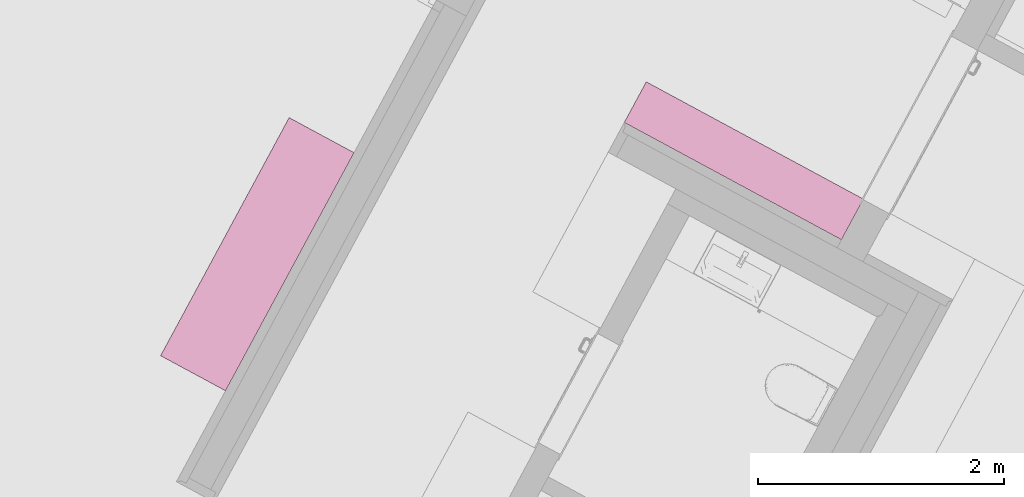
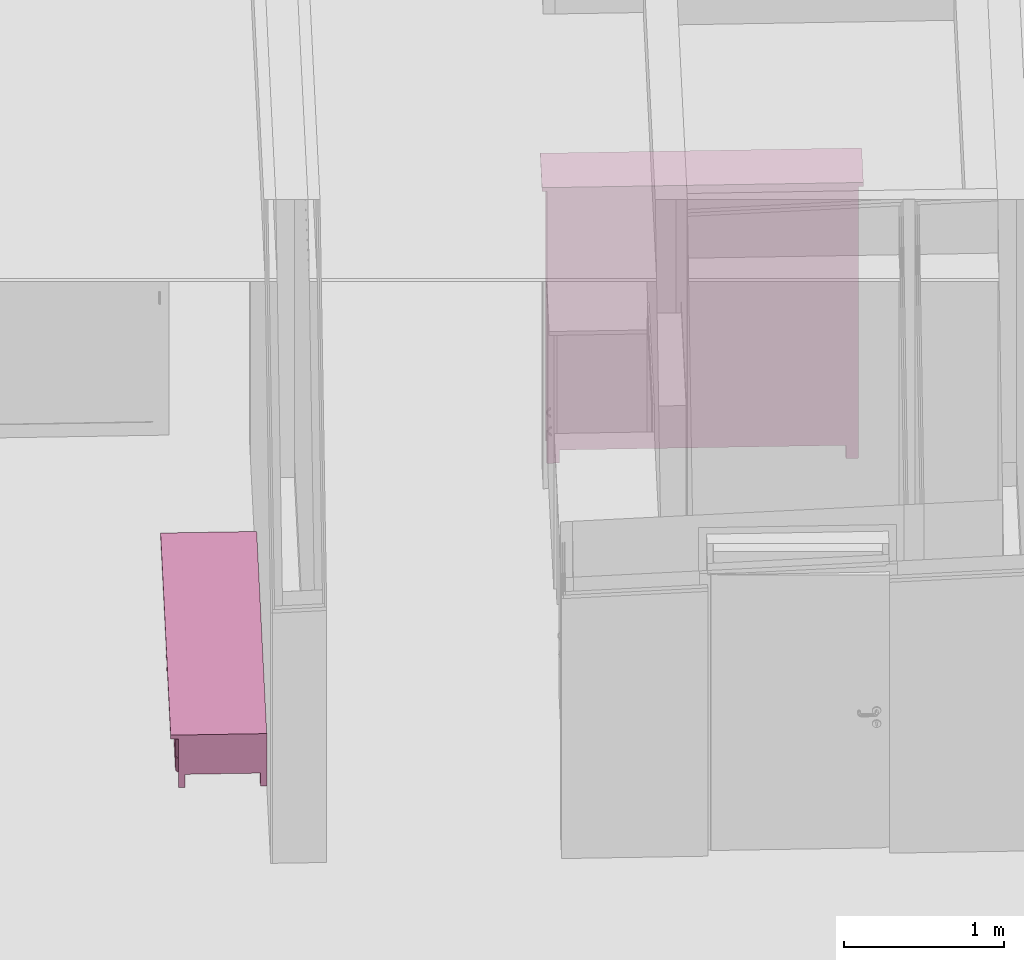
# One storey, part 35 of 52: 2 furnishings.
"""IFC2X3 building model written with IfcOpenShell, lengths in metres."""

import ifcopenshell
import ifcopenshell.guid

model = None  # the IFC model being written
_history = None  # IfcOwnerHistory: only IFC2X3 demands one
_inside = {}  # id of a spatial element -> (the spatial element, [elements in it])
_under = {}  # id of a project, library or spatial element -> (it, [spatial elements below it])
_declared = {}  # id of a project -> (the project, [libraries it declares])
_typed = {}  # id of a type object -> (the type object, [elements of that type])
_made_of = {}  # id of a material, layer set ... -> (it, [elements and type objects made of it])


def new_model(schema):
    """Start an empty IFC model of exactly this schema.

    Asked for "IFC4X3", IfcOpenShell would pick the latest addendum, in which some entities
    have other attributes; the version numbers below select the first issue.
    IFC2X3 requires an IfcOwnerHistory on every rooted entity: one is made here for all.
    """
    global model, _history
    if schema == "IFC4X3":
        model = ifcopenshell.file(schema_version=(4, 3, 0, 0))
    else:
        model = ifcopenshell.file(schema=schema)
    _inside.clear()
    _under.clear()
    _declared.clear()
    _typed.clear()
    _made_of.clear()
    _history = None
    if model.schema == "IFC2X3":
        org = make("IfcOrganization", Name="unknown")
        user = make(
            "IfcPersonAndOrganization",
            ThePerson=make("IfcPerson", FamilyName="unknown"),
            TheOrganization=org,
        )
        app = make(
            "IfcApplication",
            ApplicationDeveloper=org,
            Version="unknown",
            ApplicationFullName="unknown",
            ApplicationIdentifier="unknown",
        )
        _history = make(
            "IfcOwnerHistory",
            OwningUser=user,
            OwningApplication=app,
            ChangeAction="ADDED",
            CreationDate=0,
        )
    return model


def make(cls, **values):
    """One entity of the class cls with the attributes given. An attribute that is None is left unset."""
    return model.create_entity(
        cls, **{name: value for name, value in values.items() if value is not None}
    )


def entity(cls, *values):
    """Any entity or typed value of the class cls, its attributes in the order of the schema. None: left unset."""
    e = model.create_entity(cls)
    for i, value in enumerate(values):
        if value is not None:
            e[i] = value
    return e


def rooted(cls, **values):
    """An entity with a GlobalId (a new one), such as an element, a storey or a relation."""
    return make(cls, GlobalId=ifcopenshell.guid.new(), OwnerHistory=_history, **values)


def si_unit(unit_type, name, prefix=None):
    """IfcSIUnit, for example si_unit("LENGTHUNIT", "METRE", prefix="MILLI")."""
    return make("IfcSIUnit", UnitType=unit_type, Prefix=prefix, Name=name)


def converted_unit(unit_type, name, factor, base, dimensions=None, offset=None):
    """IfcConversionBasedUnit, such as the inch: factor (a typed value) times the base unit."""
    return make(
        "IfcConversionBasedUnit"
        if offset is None
        else "IfcConversionBasedUnitWithOffset",
        ConversionOffset=offset,
        Dimensions=None
        if dimensions is None
        else entity("IfcDimensionalExponents", *dimensions),
        UnitType=unit_type,
        Name=name,
        ConversionFactor=make(
            "IfcMeasureWithUnit", ValueComponent=factor, UnitComponent=base
        ),
    )


def derived_unit(unit_type, elements):
    """IfcDerivedUnit: a product of units, each with its exponent."""
    return make(
        "IfcDerivedUnit",
        Elements=[
            make("IfcDerivedUnitElement", Unit=unit, Exponent=power)
            for unit, power in elements
        ],
        UnitType=unit_type,
    )


def money_unit(currency):
    """IfcMonetaryUnit."""
    return make("IfcMonetaryUnit", Currency=currency)


def assignment(units):
    """IfcUnitAssignment: the units of a project."""
    return None if units is None else make("IfcUnitAssignment", Units=units)


def point(xyz):
    """IfcCartesianPoint."""
    return None if xyz is None else make("IfcCartesianPoint", Coordinates=xyz)


def direction(xyz):
    """IfcDirection."""
    return None if xyz is None else make("IfcDirection", DirectionRatios=xyz)


def frame(location, z_axis=None, x_axis=None):
    """IfcAxis2Placement3D, a coordinate frame: its origin and axes. An axis left out is left unset."""
    return make(
        "IfcAxis2Placement3D",
        Location=point(location),
        Axis=direction(z_axis),
        RefDirection=direction(x_axis),
    )


def origin_with_axes():
    """The frame at (0, 0, 0) with the z axis (0, 0, 1) and the x axis (1, 0, 0) written out."""
    return frame((0.0, 0.0, 0.0), z_axis=(0.0, 0.0, 1.0), x_axis=(1.0, 0.0, 0.0))


def place(relative_to, where):
    """IfcLocalPlacement: puts the frame where relative to a parent placement (None: the world)."""
    return make(
        "IfcLocalPlacement", PlacementRelTo=relative_to, RelativePlacement=where
    )


def context(
    kind, dimensions, precision=None, world=None, true_north=None, identifier=None
):
    """IfcGeometricRepresentationContext, for example the 3D "Model" context."""
    return make(
        "IfcGeometricRepresentationContext",
        ContextIdentifier=identifier,
        ContextType=kind,
        CoordinateSpaceDimension=dimensions,
        Precision=precision,
        WorldCoordinateSystem=world,
        TrueNorth=true_north,
    )


def subcontext(parent, identifier, kind, view, scale=None):
    """IfcGeometricRepresentationSubContext, for example "Body" below "Model"."""
    return make(
        "IfcGeometricRepresentationSubContext",
        ContextIdentifier=identifier,
        ContextType=kind,
        ParentContext=parent,
        TargetScale=scale,
        TargetView=view,
    )


def project(units=None, contexts=None):
    """IfcProject with its units and contexts."""
    return rooted(
        "IfcProject",
        Name="project",
        RepresentationContexts=contexts,
        UnitsInContext=assignment(units),
    )


def spatial(cls, under=None, at=None, **own):
    """A site, building, storey or space (cls), placed at a placement, below another one or the project."""
    s = rooted(cls, ObjectPlacement=at, **own)
    if under is not None:
        _under.setdefault(under.id(), (under, []))[1].append(s)
    return s


def faces_of(points, faces, orient=None, outer=None):
    """IfcFace entities. A face is a list of loops; a loop is a list of indices into points, from 0.

    orient and outer hold one flag for each loop. By default every Orientation is true, the
    first loop of a face is its IfcFaceOuterBound and the others are IfcFaceBound.
    """
    made = []
    for i, loops in enumerate(faces):
        bounds = []
        for j, loop in enumerate(loops):
            is_outer = j == 0 if outer is None else outer[i][j]
            bounds.append(
                make(
                    "IfcFaceOuterBound" if is_outer else "IfcFaceBound",
                    Bound=make("IfcPolyLoop", Polygon=[points[k] for k in loop]),
                    Orientation=True if orient is None else orient[i][j],
                )
            )
        made.append(make("IfcFace", Bounds=bounds))
    return made


def faceted_brep(points, faces, orient=None, outer=None, voids=None):
    """IfcFacetedBrep: a solid bounded by flat faces; with voids (closed shells), ...WithVoids."""
    shared = [point(p) for p in points]
    hull = make("IfcClosedShell", CfsFaces=faces_of(shared, faces, orient, outer))
    if voids is None:
        return make("IfcFacetedBrep", Outer=hull)
    return make(
        "IfcFacetedBrepWithVoids",
        Outer=hull,
        Voids=[
            make(cls, CfsFaces=faces_of(shared, fs, o, b)) for cls, fs, o, b in voids
        ],
    )


def shape(context_of_items, identifier, shape_type, items):
    """IfcShapeRepresentation: the items that make up one representation, for example the "Body"."""
    return make(
        "IfcShapeRepresentation",
        ContextOfItems=context_of_items,
        RepresentationIdentifier=identifier,
        RepresentationType=shape_type,
        Items=items,
    )


def made_of(thing, what):
    """Note that an element or type object is made of a material, layer set ...; save() writes the relation."""
    if what is not None:
        _made_of.setdefault(what.id(), (what, []))[1].append(thing)
    return thing


def type_object(cls, material=None, **own):
    """A type object (cls), such as IfcWallType, which elements share."""
    return made_of(rooted(cls, **own), material)


def element(
    cls,
    number,
    at=None,
    inside=None,
    cuts=None,
    type_object=None,
    material=None,
    context=None,
    identifier="Body",
    shape_type=None,
    held_by="IfcProductDefinitionShape",
    body=None,
    shapes=None,
    **own,
):
    """One element of the class cls, such as IfcWall. Its Tag is "e" and its number.

    at: its placement. inside: the storey or other place that contains it. cuts: it is an
    opening in that element (IfcRelVoidsElement). A single representation is given by context,
    identifier, shape_type and body (its items); several are given by shapes. held_by: the class
    of the entity that holds the representations. save() writes the other relations.
    """
    e = rooted(cls, Tag="e%d" % number, ObjectPlacement=at, **own)
    if body is not None:
        shapes = [shape(context, identifier, shape_type, body)]
    if shapes is not None:
        e.Representation = make(held_by, Representations=shapes)
    if inside is not None:
        _inside.setdefault(inside.id(), (inside, []))[1].append(e)
    if cuts is not None:
        rooted(
            "IfcRelVoidsElement", RelatingBuildingElement=cuts, RelatedOpeningElement=e
        )
    if type_object is not None:
        _typed.setdefault(type_object.id(), (type_object, []))[1].append(e)
    return made_of(e, material)


def aggregate(whole, parts):
    """IfcRelAggregates: a whole, such as a stair, and the parts it consists of."""
    return rooted("IfcRelAggregates", RelatingObject=whole, RelatedObjects=parts)


def save(model, path):
    """Write the relations noted so far, then the file.

    IfcRelAggregates (storeys below a building ...), IfcRelContainedInSpatialStructure (elements
    in a storey), IfcRelDefinesByType, IfcRelAssociatesMaterial and IfcRelDeclares: one each for
    every whole, place, type object, material and project.
    """
    for whole, parts in _under.values():
        aggregate(whole, parts)
    for where, things in _inside.values():
        rooted(
            "IfcRelContainedInSpatialStructure",
            RelatedElements=things,
            RelatingStructure=where,
        )
    for kind, things in _typed.values():
        rooted("IfcRelDefinesByType", RelatedObjects=things, RelatingType=kind)
    for what, things in _made_of.values():
        rooted("IfcRelAssociatesMaterial", RelatedObjects=things, RelatingMaterial=what)
    for by, libraries in _declared.values():
        rooted("IfcRelDeclares", RelatingContext=by, RelatedDefinitions=libraries)
    model.write(path)


model = new_model("IFC2X3")

# Units and contexts
model_context = context("Model", 3, precision=1e-05, world=origin_with_axes(), true_north=direction((0.0, 1.0)))
body_context = subcontext(model_context, "Body", "Model", "MODEL_VIEW")
ifc_project = project(units=[si_unit("LENGTHUNIT", "METRE"), si_unit("AREAUNIT", "SQUARE_METRE"), si_unit("VOLUMEUNIT", "CUBIC_METRE"), converted_unit("PLANEANGLEUNIT", "DEGREE", entity("IfcPlaneAngleMeasure", 0.0174532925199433), si_unit("PLANEANGLEUNIT", "RADIAN"), dimensions=[0, 0, 0, 0, 0, 0, 0]), money_unit("EUR"), converted_unit("TIMEUNIT", "Year", entity("IfcTimeMeasure", 31556926.0), si_unit("TIMEUNIT", "SECOND"), dimensions=[0, 0, 1, 0, 0, 0, 0]), si_unit("MASSUNIT", "GRAM", prefix="KILO"), si_unit("THERMODYNAMICTEMPERATUREUNIT", "DEGREE_CELSIUS"), si_unit("LUMINOUSINTENSITYUNIT", "LUMEN"), si_unit("ENERGYUNIT", "JOULE", prefix="MEGA"), derived_unit("THERMALCONDUCTANCEUNIT", [(si_unit("POWERUNIT", "WATT"), 1), (si_unit("LENGTHUNIT", "METRE"), -1), (si_unit("THERMODYNAMICTEMPERATUREUNIT", "KELVIN"), -1)]), derived_unit("SPECIFICHEATCAPACITYUNIT", [(si_unit("ENERGYUNIT", "JOULE"), 1), (si_unit("MASSUNIT", "GRAM", prefix="KILO"), -1), (si_unit("THERMODYNAMICTEMPERATUREUNIT", "KELVIN"), -1)]), derived_unit("MASSDENSITYUNIT", [(si_unit("MASSUNIT", "GRAM", prefix="KILO"), 1), (si_unit("VOLUMEUNIT", "CUBIC_METRE"), -1)])], contexts=[model_context])

# Site, building, storey
site_placement = place(None, frame((-3.949935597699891, 1.740105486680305, 0.0), z_axis=(0.0, 0.0, 1.0), x_axis=(0.8799804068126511, -0.475009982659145, 0.0)))
site = spatial("IfcSite", under=ifc_project, at=site_placement, Name="Gelände", CompositionType="ELEMENT")
building_placement = place(site_placement, origin_with_axes())
building = spatial("IfcBuilding", under=site, at=building_placement, Name="Gebäude", CompositionType="ELEMENT")
storey_placement = place(building_placement, origin_with_axes())
storey = spatial("IfcBuildingStorey", under=building, at=storey_placement, Name="Erdgeschoss", CompositionType="ELEMENT", Elevation=0.0)

# Furnishings
furnishing_element_type_1 = type_object("IfcFurnishingElementType", Name="Kleiderschrank 22")
furnishing_1_placement = place(storey_placement, frame((17.16748824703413, 7.378842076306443, 0.0), z_axis=(0.0, 0.0, 1.0), x_axis=(-1.0, 0.0, 0.0)))
element("IfcFurnishingElement", 1, at=furnishing_1_placement, inside=storey, type_object=furnishing_element_type_1, Name="Objekt-0067", context=body_context, shape_type="Brep", body=[
    faceted_brep([(0.05000000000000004, 0.3757887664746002, 0.12), (0.05000000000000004, 0.3557887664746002, 0.12), (0.05000000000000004, 0.3557887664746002, 2.05), (0.05000000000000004, 0.3757887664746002, 2.05), (1.956660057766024, 0.3757887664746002, 0.12), (1.956660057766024, 0.3557887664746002, 0.12), (1.956660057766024, 0.3557887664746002, 2.05), (1.956660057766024, 0.3757887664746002, 2.05)], [[[0, 1, 2, 3]], [[0, 4, 5, 1]], [[1, 5, 6, 2]], [[3, 2, 6, 7]], [[4, 0, 3, 7]], [[5, 4, 7, 6]]]),
    faceted_brep([(1.976660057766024, 0.05000000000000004, 0.1), (1.956660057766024, 0.05000000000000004, 0.1), (1.956660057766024, 0.3757887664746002, 0.1), (1.976660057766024, 0.3757887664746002, 0.1), (1.976660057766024, 0.05000000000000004, 2.07), (1.956660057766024, 0.05000000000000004, 2.07), (1.956660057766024, 0.3757887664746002, 2.07), (1.976660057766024, 0.3757887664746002, 2.07)], [[[0, 1, 2, 3]], [[1, 0, 4, 5]], [[2, 1, 5, 6]], [[3, 2, 6, 7]], [[0, 3, 7, 4]], [[5, 4, 7, 6]]]),
    faceted_brep([(0.05000000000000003, 0.05000000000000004, 0.1), (0.03000000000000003, 0.05000000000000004, 0.1), (0.03000000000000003, 0.3757887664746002, 0.1), (0.05000000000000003, 0.3757887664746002, 0.1), (0.05000000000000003, 0.05000000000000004, 2.07), (0.03000000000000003, 0.05000000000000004, 2.07), (0.03000000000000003, 0.3757887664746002, 2.07), (0.05000000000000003, 0.3757887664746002, 2.07)], [[[0, 1, 2, 3]], [[1, 0, 4, 5]], [[2, 1, 5, 6]], [[3, 2, 6, 7]], [[0, 3, 7, 4]], [[5, 4, 7, 6]]]),
    faceted_brep([(1.956660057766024, 0.05000000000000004, 0.1), (0.05000000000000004, 0.05000000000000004, 0.1), (0.05000000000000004, 0.3757887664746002, 0.1), (1.956660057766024, 0.3757887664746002, 0.1), (1.956660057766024, 0.05000000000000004, 0.12), (0.05000000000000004, 0.05000000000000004, 0.12), (0.05000000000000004, 0.3757887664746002, 0.12), (1.956660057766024, 0.3757887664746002, 0.12)], [[[0, 1, 2, 3]], [[1, 0, 4, 5]], [[2, 1, 5, 6]], [[3, 2, 6, 7]], [[0, 3, 7, 4]], [[5, 4, 7, 6]]]),
    faceted_brep([(1.956660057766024, 0.05000000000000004, 2.05), (0.05000000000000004, 0.05000000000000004, 2.05), (0.05000000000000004, 0.3757887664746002, 2.05), (1.956660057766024, 0.3757887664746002, 2.05), (1.956660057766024, 0.05000000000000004, 2.07), (0.05000000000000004, 0.05000000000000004, 2.07), (0.05000000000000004, 0.3757887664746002, 2.07), (1.956660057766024, 0.3757887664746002, 2.07)], [[[0, 1, 2, 3]], [[1, 0, 4, 5]], [[2, 1, 5, 6]], [[3, 2, 6, 7]], [[0, 3, 7, 4]], [[5, 4, 7, 6]]]),
    faceted_brep([(2.006660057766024, 0.3757887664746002, 2.07), (2.006660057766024, 0.3757887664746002, 2.1), (2.006660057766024, 0.0, 2.1), (2.006660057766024, 0.0, 2.07), (0.0, 0.3757887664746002, 2.07), (0.0, 0.3757887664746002, 2.1), (0.0, 0.0, 2.1), (0.0, 0.0, 2.07)], [[[0, 1, 2, 3]], [[4, 5, 1, 0]], [[1, 5, 6, 2]], [[3, 2, 6, 7]], [[0, 3, 7, 4]], [[7, 6, 5, 4]]]),
    faceted_brep([(0.1100000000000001, 0.2957887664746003, 0.0), (0.1100000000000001, 0.3757887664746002, 0.0), (0.1100000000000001, 0.3757887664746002, 0.1), (0.1100000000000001, 0.2957887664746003, 0.1), (0.03000000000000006, 0.2957887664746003, 0.0), (0.03000000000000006, 0.3757887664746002, 0.0), (0.03000000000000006, 0.3757887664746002, 0.1), (0.03000000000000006, 0.2957887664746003, 0.1)], [[[0, 1, 2, 3]], [[0, 4, 5, 1]], [[1, 5, 6, 2]], [[3, 2, 6, 7]], [[4, 0, 3, 7]], [[5, 4, 7, 6]]]),
    faceted_brep([(1.976660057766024, 0.2957887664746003, 0.0), (1.976660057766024, 0.3757887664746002, 0.0), (1.976660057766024, 0.3757887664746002, 0.1), (1.976660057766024, 0.2957887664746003, 0.1), (1.896660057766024, 0.2957887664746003, 0.0), (1.896660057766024, 0.3757887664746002, 0.0), (1.896660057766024, 0.3757887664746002, 0.1), (1.896660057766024, 0.2957887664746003, 0.1)], [[[0, 1, 2, 3]], [[0, 4, 5, 1]], [[1, 5, 6, 2]], [[3, 2, 6, 7]], [[4, 0, 3, 7]], [[5, 4, 7, 6]]]),
    faceted_brep([(0.1100000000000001, 0.05000000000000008, 0.0), (0.1100000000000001, 0.1300000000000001, 0.0), (0.1100000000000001, 0.1300000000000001, 0.1), (0.1100000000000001, 0.05000000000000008, 0.1), (0.03000000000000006, 0.05000000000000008, 0.0), (0.03000000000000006, 0.1300000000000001, 0.0), (0.03000000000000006, 0.1300000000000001, 0.1), (0.03000000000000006, 0.05000000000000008, 0.1)], [[[0, 1, 2, 3]], [[0, 4, 5, 1]], [[1, 5, 6, 2]], [[3, 2, 6, 7]], [[4, 0, 3, 7]], [[5, 4, 7, 6]]]),
    faceted_brep([(1.976660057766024, 0.05000000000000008, 0.0), (1.976660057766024, 0.1300000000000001, 0.0), (1.976660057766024, 0.1300000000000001, 0.1), (1.976660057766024, 0.05000000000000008, 0.1), (1.896660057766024, 0.05000000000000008, 0.0), (1.896660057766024, 0.1300000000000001, 0.0), (1.896660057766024, 0.1300000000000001, 0.1), (1.896660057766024, 0.05000000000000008, 0.1)], [[[0, 1, 2, 3]], [[0, 4, 5, 1]], [[1, 5, 6, 2]], [[3, 2, 6, 7]], [[4, 0, 3, 7]], [[5, 4, 7, 6]]]),
    faceted_brep([(0.04050000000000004, 0.05, 0.1104999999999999), (1.002830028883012, 0.05, 0.1104999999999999), (1.002830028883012, 0.03, 0.1104999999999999), (0.04050000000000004, 0.03, 0.1104999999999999), (0.04050000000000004, 0.05000000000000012, 2.0595), (1.002830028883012, 0.05000000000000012, 2.0595), (1.002830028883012, 0.03000000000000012, 2.0595), (0.04050000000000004, 0.03000000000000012, 2.0595)], [[[0, 1, 2, 3]], [[0, 4, 5, 1]], [[1, 5, 6, 2]], [[3, 2, 6, 7]], [[4, 0, 3, 7]], [[5, 4, 7, 6]]]),
    faceted_brep([(0.9402563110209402, 0.03, 0.955), (0.9402563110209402, 0.03, 0.965), (0.9523284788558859, 0.03, 0.965), (0.9523284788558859, 0.03, 0.955), (0.929155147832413, 0.01914952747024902, 0.965), (0.929155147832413, 0.01914952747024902, 0.955), (0.8755049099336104, 0.01914952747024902, 0.965), (0.8644037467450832, 0.03, 0.965), (0.8523315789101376, 0.03, 0.965), (0.8673017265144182, 0.01692943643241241, 0.965), (0.8842950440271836, 0.008772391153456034, 0.965), (0.9023300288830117, 0.006000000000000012, 0.965), (0.9203650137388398, 0.008772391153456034, 0.965), (0.9373583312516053, 0.01692943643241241, 0.965), (0.9162178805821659, 0.01232720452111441, 0.965), (0.9023300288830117, 0.009999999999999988, 0.965), (0.8884421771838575, 0.01232720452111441, 0.965), (0.9373583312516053, 0.01692943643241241, 0.955), (0.9203650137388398, 0.008772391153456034, 0.955), (0.9023300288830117, 0.006000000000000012, 0.955), (0.8842950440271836, 0.008772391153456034, 0.955), (0.8673017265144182, 0.01692943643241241, 0.955), (0.8523315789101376, 0.03, 0.955), (0.8644037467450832, 0.03, 0.955), (0.8755049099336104, 0.01914952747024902, 0.955), (0.8884421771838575, 0.01232720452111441, 0.955), (0.9023300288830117, 0.009999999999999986, 0.955), (0.9162178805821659, 0.01232720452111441, 0.955)], [[[0, 1, 2, 3]], [[4, 1, 0, 5]], [[6, 7, 8, 9, 10, 11, 12, 13, 2, 1, 4, 14, 15, 16]], [[13, 17, 3, 2]], [[5, 0, 3, 17, 18, 19, 20, 21, 22, 23, 24, 25, 26, 27]], [[14, 4, 5, 27]], [[7, 6, 24, 23]], [[7, 23, 22, 8]], [[8, 22, 21, 9]], [[9, 21, 20, 10]], [[10, 20, 19, 11]], [[11, 19, 18, 12]], [[12, 18, 17, 13]], [[15, 14, 27, 26]], [[16, 15, 26, 25]], [[6, 16, 25, 24]]]),
    faceted_brep([(1.004830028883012, 0.05, 0.1104999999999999), (1.967160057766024, 0.05, 0.1104999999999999), (1.967160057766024, 0.03, 0.1104999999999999), (1.004830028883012, 0.03, 0.1104999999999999), (1.004830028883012, 0.05000000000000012, 2.0595), (1.967160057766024, 0.05000000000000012, 2.0595), (1.967160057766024, 0.03000000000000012, 2.0595), (1.004830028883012, 0.03000000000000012, 2.0595)], [[[0, 1, 2, 3]], [[0, 4, 5, 1]], [[1, 5, 6, 2]], [[3, 2, 6, 7]], [[4, 0, 3, 7]], [[5, 4, 7, 6]]]),
    faceted_brep([(1.14225631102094, 0.03, 0.955), (1.14225631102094, 0.03, 0.965), (1.154328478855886, 0.03, 0.965), (1.154328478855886, 0.03, 0.955), (1.131155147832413, 0.01914952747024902, 0.965), (1.131155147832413, 0.01914952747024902, 0.955), (1.07750490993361, 0.01914952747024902, 0.965), (1.066403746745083, 0.03, 0.965), (1.054331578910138, 0.03, 0.965), (1.069301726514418, 0.01692943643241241, 0.965), (1.086295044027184, 0.008772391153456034, 0.965), (1.104330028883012, 0.006000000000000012, 0.965), (1.12236501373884, 0.008772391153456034, 0.965), (1.139358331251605, 0.01692943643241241, 0.965), (1.118217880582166, 0.01232720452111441, 0.965), (1.104330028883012, 0.009999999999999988, 0.965), (1.090442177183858, 0.01232720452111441, 0.965), (1.139358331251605, 0.01692943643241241, 0.955), (1.12236501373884, 0.008772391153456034, 0.955), (1.104330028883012, 0.006000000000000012, 0.955), (1.086295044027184, 0.008772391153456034, 0.955), (1.069301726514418, 0.01692943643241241, 0.955), (1.054331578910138, 0.03, 0.955), (1.066403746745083, 0.03, 0.955), (1.07750490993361, 0.01914952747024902, 0.955), (1.090442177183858, 0.01232720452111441, 0.955), (1.104330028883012, 0.009999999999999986, 0.955), (1.118217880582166, 0.01232720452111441, 0.955)], [[[0, 1, 2, 3]], [[4, 1, 0, 5]], [[6, 7, 8, 9, 10, 11, 12, 13, 2, 1, 4, 14, 15, 16]], [[17, 3, 2, 13]], [[5, 0, 3, 17, 18, 19, 20, 21, 22, 23, 24, 25, 26, 27]], [[14, 4, 5, 27]], [[7, 6, 24, 23]], [[7, 23, 22, 8]], [[22, 21, 9, 8]], [[21, 20, 10, 9]], [[20, 19, 11, 10]], [[19, 18, 12, 11]], [[18, 17, 13, 12]], [[15, 14, 27, 26]], [[16, 15, 26, 25]], [[6, 16, 25, 24]]]),
])
furnishing_element_type_2 = type_object("IfcFurnishingElementType", Name="Sideboard 22")
furnishing_2_placement = place(storey_placement, frame((12.74418401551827, 5.743410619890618, 0.0), z_axis=(0.0, 0.0, 1.0), x_axis=(0.0, -1.0, 0.0)))
element("IfcFurnishingElement", 2, at=furnishing_2_placement, inside=storey, type_object=furnishing_element_type_2, Name="Objekt-0067", context=body_context, shape_type="Brep", body=[
    faceted_brep([(2.18, 0.5999999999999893, 0.12), (2.18, 0.5999999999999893, 0.35), (2.18, 0.5799999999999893, 0.35), (2.18, 0.5799999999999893, 0.12), (0.02000000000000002, 0.5999999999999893, 0.12), (0.02000000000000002, 0.5999999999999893, 0.35), (0.02000000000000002, 0.5799999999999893, 0.35), (0.02000000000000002, 0.5799999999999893, 0.12)], [[[0, 1, 2, 3]], [[4, 5, 1, 0]], [[1, 5, 6, 2]], [[3, 2, 6, 7]], [[0, 3, 7, 4]], [[7, 6, 5, 4]]]),
    faceted_brep([(0.0, 0.05000000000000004, 0.1), (0.0, 0.5999999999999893, 0.1), (0.02000000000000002, 0.5999999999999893, 0.1), (0.02000000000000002, 0.05000000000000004, 0.1), (0.0, 0.05000000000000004, 0.37), (0.0, 0.5999999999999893, 0.37), (0.02000000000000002, 0.5999999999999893, 0.37), (0.02000000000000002, 0.05000000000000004, 0.37)], [[[0, 1, 2, 3]], [[0, 4, 5, 1]], [[1, 5, 6, 2]], [[2, 6, 7, 3]], [[3, 7, 4, 0]], [[7, 6, 5, 4]]]),
    faceted_brep([(2.18, 0.05000000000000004, 0.1), (2.18, 0.5999999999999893, 0.1), (2.2, 0.5999999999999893, 0.1), (2.2, 0.05000000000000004, 0.1), (2.18, 0.05000000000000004, 0.37), (2.18, 0.5999999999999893, 0.37), (2.2, 0.5999999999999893, 0.37), (2.2, 0.05000000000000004, 0.37)], [[[0, 1, 2, 3]], [[0, 4, 5, 1]], [[1, 5, 6, 2]], [[2, 6, 7, 3]], [[3, 7, 4, 0]], [[7, 6, 5, 4]]]),
    faceted_brep([(0.02000000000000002, 0.05000000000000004, 0.1), (0.02000000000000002, 0.5999999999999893, 0.1), (2.18, 0.5999999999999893, 0.1), (2.18, 0.05000000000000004, 0.1), (0.02000000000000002, 0.05000000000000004, 0.12), (0.02000000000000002, 0.5999999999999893, 0.12), (2.18, 0.5999999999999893, 0.12), (2.18, 0.05000000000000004, 0.12)], [[[0, 1, 2, 3]], [[0, 4, 5, 1]], [[1, 5, 6, 2]], [[2, 6, 7, 3]], [[3, 7, 4, 0]], [[7, 6, 5, 4]]]),
    faceted_brep([(0.02000000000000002, 0.05000000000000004, 0.35), (0.02000000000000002, 0.5999999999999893, 0.35), (2.18, 0.5999999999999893, 0.35), (2.18, 0.05000000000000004, 0.35), (0.02000000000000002, 0.05000000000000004, 0.37), (0.02000000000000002, 0.5999999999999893, 0.37), (2.18, 0.5999999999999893, 0.37), (2.18, 0.05000000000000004, 0.37)], [[[0, 1, 2, 3]], [[0, 4, 5, 1]], [[1, 5, 6, 2]], [[2, 6, 7, 3]], [[3, 7, 4, 0]], [[7, 6, 5, 4]]]),
    faceted_brep([(0.0, 0.5999999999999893, 0.37), (0.0, 0.0, 0.37), (0.0, 0.0, 0.4), (0.0, 0.5999999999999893, 0.4), (2.2, 0.5999999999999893, 0.37), (2.2, 0.0, 0.37), (2.2, 0.0, 0.4), (2.2, 0.5999999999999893, 0.4)], [[[0, 1, 2, 3]], [[0, 4, 5, 1]], [[1, 5, 6, 2]], [[3, 2, 6, 7]], [[4, 0, 3, 7]], [[5, 4, 7, 6]]]),
    faceted_brep([(2.16, 0.5599999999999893, 0.0), (2.16, 0.5599999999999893, 0.1), (2.16, 0.5999999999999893, 0.1), (2.16, 0.5999999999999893, 0.0), (2.2, 0.5599999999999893, 0.0), (2.2, 0.5599999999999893, 0.1), (2.2, 0.5999999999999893, 0.1), (2.2, 0.5999999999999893, 0.0)], [[[0, 1, 2, 3]], [[4, 5, 1, 0]], [[1, 5, 6, 2]], [[3, 2, 6, 7]], [[0, 3, 7, 4]], [[7, 6, 5, 4]]]),
    faceted_brep([(0.0, 0.5599999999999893, 0.0), (0.0, 0.5599999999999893, 0.1), (0.0, 0.5999999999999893, 0.1), (0.0, 0.5999999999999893, 0.0), (0.04000000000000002, 0.5599999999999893, 0.0), (0.04000000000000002, 0.5599999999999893, 0.1), (0.04000000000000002, 0.5999999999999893, 0.1), (0.04000000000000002, 0.5999999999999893, 0.0)], [[[0, 1, 2, 3]], [[4, 5, 1, 0]], [[1, 5, 6, 2]], [[3, 2, 6, 7]], [[0, 3, 7, 4]], [[7, 6, 5, 4]]]),
    faceted_brep([(2.16, 0.05000000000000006, 0.0), (2.16, 0.05000000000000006, 0.1), (2.16, 0.09000000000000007, 0.1), (2.16, 0.09000000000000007, 0.0), (2.2, 0.05000000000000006, 0.0), (2.2, 0.05000000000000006, 0.1), (2.2, 0.09000000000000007, 0.1), (2.2, 0.09000000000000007, 0.0)], [[[0, 1, 2, 3]], [[4, 5, 1, 0]], [[1, 5, 6, 2]], [[3, 2, 6, 7]], [[0, 3, 7, 4]], [[7, 6, 5, 4]]]),
    faceted_brep([(0.0, 0.05000000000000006, 0.0), (0.0, 0.05000000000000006, 0.1), (0.0, 0.09000000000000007, 0.1), (0.0, 0.09000000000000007, 0.0), (0.04000000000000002, 0.05000000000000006, 0.0), (0.04000000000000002, 0.05000000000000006, 0.1), (0.04000000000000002, 0.09000000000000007, 0.1), (0.04000000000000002, 0.09000000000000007, 0.0)], [[[0, 1, 2, 3]], [[4, 5, 1, 0]], [[1, 5, 6, 2]], [[3, 2, 6, 7]], [[0, 3, 7, 4]], [[7, 6, 5, 4]]]),
    faceted_brep([(2.189, 0.05000000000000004, 0.111), (1.101, 0.05000000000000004, 0.111), (1.101, 0.05000000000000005, 0.219), (2.189, 0.05000000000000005, 0.219), (2.189000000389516, 0.04000000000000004, 0.1109999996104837), (1.100999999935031, 0.04000000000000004, 0.1109999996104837), (1.100999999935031, 0.04000000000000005, 0.2189999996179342), (2.189000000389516, 0.04000000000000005, 0.2189999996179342), (2.179000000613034, 0.03000000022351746, 0.1209999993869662), (1.110999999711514, 0.03000000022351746, 0.1209999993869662), (1.110999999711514, 0.03000000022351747, 0.2089999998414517), (2.179000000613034, 0.03000000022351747, 0.2089999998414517)], [[[0, 1, 2, 3]], [[0, 4, 5, 1]], [[1, 5, 6, 2]], [[2, 6, 7, 3]], [[3, 7, 4, 0]], [[4, 8, 9, 5]], [[5, 9, 10, 6]], [[6, 10, 11, 7]], [[7, 11, 8, 4]], [[10, 9, 8, 11]]]),
    faceted_brep([(1.160607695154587, 0.03000000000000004, 0.175), (1.159, 0.03000000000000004, 0.181), (1.160607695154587, 0.03000000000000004, 0.187), (1.165, 0.03000000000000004, 0.1913923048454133), (1.171, 0.03000000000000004, 0.193), (1.177, 0.03000000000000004, 0.1913923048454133), (1.181392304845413, 0.03000000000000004, 0.187), (1.183, 0.03000000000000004, 0.181), (1.181392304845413, 0.03000000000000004, 0.175), (1.177, 0.03000000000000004, 0.1706076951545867), (1.171, 0.03000000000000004, 0.169), (1.165, 0.03000000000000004, 0.1706076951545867), (1.160607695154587, 0.005000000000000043, 0.175), (1.159, 0.005000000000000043, 0.181), (1.160607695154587, 0.005000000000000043, 0.187), (1.165, 0.005000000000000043, 0.1913923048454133), (1.171, 0.005000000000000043, 0.193), (1.177, 0.005000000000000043, 0.1913923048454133), (1.181392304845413, 0.005000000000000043, 0.187), (1.183, 0.005000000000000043, 0.181), (1.181392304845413, 0.005000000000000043, 0.175), (1.177, 0.005000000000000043, 0.1706076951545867), (1.171, 0.005000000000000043, 0.169), (1.165, 0.005000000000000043, 0.1706076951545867)], [[[0, 1, 2, 3, 4, 5, 6, 7, 8, 9, 10, 11]], [[0, 12, 13, 1]], [[1, 13, 14, 2]], [[2, 14, 15, 3]], [[3, 15, 16, 4]], [[4, 16, 17, 5]], [[5, 17, 18, 6]], [[6, 18, 19, 7]], [[7, 19, 20, 8]], [[8, 20, 21, 9]], [[9, 21, 22, 10]], [[10, 22, 23, 11]], [[11, 23, 12, 0]], [[12, 23, 22, 21, 20, 19, 18, 17, 16, 15, 14, 13]]]),
    faceted_brep([(0.0109999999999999, 0.05000000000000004, 0.111), (0.0109999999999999, 0.05000000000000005, 0.219), (1.099, 0.05000000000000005, 0.219), (1.099, 0.05000000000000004, 0.111), (0.01099999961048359, 0.04000000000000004, 0.1109999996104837), (0.01099999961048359, 0.04000000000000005, 0.2189999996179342), (1.099000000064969, 0.04000000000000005, 0.2189999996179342), (1.099000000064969, 0.04000000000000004, 0.1109999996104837), (0.02099999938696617, 0.03000000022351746, 0.1209999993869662), (0.02099999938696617, 0.03000000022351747, 0.2089999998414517), (1.089000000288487, 0.03000000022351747, 0.2089999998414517), (1.089000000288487, 0.03000000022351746, 0.1209999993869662)], [[[0, 1, 2, 3]], [[1, 0, 4, 5]], [[2, 1, 5, 6]], [[3, 2, 6, 7]], [[0, 3, 7, 4]], [[5, 4, 8, 9]], [[6, 5, 9, 10]], [[7, 6, 10, 11]], [[4, 7, 11, 8]], [[10, 9, 8, 11]]]),
    faceted_brep([(1.039392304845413, 0.03000000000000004, 0.175), (1.035, 0.03000000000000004, 0.1706076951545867), (1.029, 0.03000000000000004, 0.169), (1.023, 0.03000000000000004, 0.1706076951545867), (1.018607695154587, 0.03000000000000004, 0.175), (1.017, 0.03000000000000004, 0.181), (1.018607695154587, 0.03000000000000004, 0.187), (1.023, 0.03000000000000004, 0.1913923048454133), (1.029, 0.03000000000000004, 0.193), (1.035, 0.03000000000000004, 0.1913923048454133), (1.039392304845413, 0.03000000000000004, 0.187), (1.041, 0.03000000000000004, 0.181), (1.039392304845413, 0.005000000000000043, 0.175), (1.035, 0.005000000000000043, 0.1706076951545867), (1.029, 0.005000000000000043, 0.169), (1.023, 0.005000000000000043, 0.1706076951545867), (1.018607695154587, 0.005000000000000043, 0.175), (1.017, 0.005000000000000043, 0.181), (1.018607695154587, 0.005000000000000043, 0.187), (1.023, 0.005000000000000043, 0.1913923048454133), (1.029, 0.005000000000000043, 0.193), (1.035, 0.005000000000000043, 0.1913923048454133), (1.039392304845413, 0.005000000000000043, 0.187), (1.041, 0.005000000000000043, 0.181)], [[[0, 1, 2, 3, 4, 5, 6, 7, 8, 9, 10, 11]], [[1, 0, 12, 13]], [[2, 1, 13, 14]], [[3, 2, 14, 15]], [[4, 3, 15, 16]], [[5, 4, 16, 17]], [[6, 5, 17, 18]], [[7, 6, 18, 19]], [[8, 7, 19, 20]], [[9, 8, 20, 21]], [[10, 9, 21, 22]], [[11, 10, 22, 23]], [[0, 11, 23, 12]], [[12, 23, 22, 21, 20, 19, 18, 17, 16, 15, 14, 13]]]),
    faceted_brep([(2.189000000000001, 0.05000000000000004, 0.221), (1.464333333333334, 0.05000000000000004, 0.221), (1.464333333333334, 0.05000000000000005, 0.359), (2.189000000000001, 0.05000000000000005, 0.359), (2.189000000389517, 0.04000000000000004, 0.2209999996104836), (1.464333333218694, 0.04000000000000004, 0.2209999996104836), (1.464333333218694, 0.04000000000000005, 0.3589999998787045), (2.189000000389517, 0.04000000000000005, 0.3589999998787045), (2.179000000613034, 0.03000000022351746, 0.2309999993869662), (1.474333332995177, 0.03000000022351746, 0.2309999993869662), (1.474333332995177, 0.03000000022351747, 0.3490000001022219), (2.179000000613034, 0.03000000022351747, 0.3490000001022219)], [[[0, 1, 2, 3]], [[0, 4, 5, 1]], [[1, 5, 6, 2]], [[2, 6, 7, 3]], [[3, 7, 4, 0]], [[4, 8, 9, 5]], [[5, 9, 10, 6]], [[6, 10, 11, 7]], [[7, 11, 8, 4]], [[10, 9, 8, 11]]]),
    faceted_brep([(1.816274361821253, 0.03000000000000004, 0.284), (1.814666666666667, 0.03000000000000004, 0.29), (1.816274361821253, 0.03000000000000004, 0.296), (1.820666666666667, 0.03000000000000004, 0.3003923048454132), (1.826666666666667, 0.03000000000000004, 0.302), (1.832666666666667, 0.03000000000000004, 0.3003923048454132), (1.83705897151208, 0.03000000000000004, 0.296), (1.838666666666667, 0.03000000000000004, 0.29), (1.83705897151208, 0.03000000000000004, 0.284), (1.832666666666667, 0.03000000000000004, 0.2796076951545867), (1.826666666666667, 0.03000000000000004, 0.278), (1.820666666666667, 0.03000000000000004, 0.2796076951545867), (1.816274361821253, 0.005000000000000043, 0.284), (1.814666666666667, 0.005000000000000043, 0.29), (1.816274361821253, 0.005000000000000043, 0.296), (1.820666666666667, 0.005000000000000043, 0.3003923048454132), (1.826666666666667, 0.005000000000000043, 0.302), (1.832666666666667, 0.005000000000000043, 0.3003923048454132), (1.83705897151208, 0.005000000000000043, 0.296), (1.838666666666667, 0.005000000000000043, 0.29), (1.83705897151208, 0.005000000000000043, 0.284), (1.832666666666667, 0.005000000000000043, 0.2796076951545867), (1.826666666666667, 0.005000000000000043, 0.278), (1.820666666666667, 0.005000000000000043, 0.2796076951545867)], [[[0, 1, 2, 3, 4, 5, 6, 7, 8, 9, 10, 11]], [[0, 12, 13, 1]], [[1, 13, 14, 2]], [[2, 14, 15, 3]], [[3, 15, 16, 4]], [[4, 16, 17, 5]], [[5, 17, 18, 6]], [[6, 18, 19, 7]], [[7, 19, 20, 8]], [[8, 20, 21, 9]], [[9, 21, 22, 10]], [[10, 22, 23, 11]], [[11, 23, 12, 0]], [[12, 23, 22, 21, 20, 19, 18, 17, 16, 15, 14, 13]]]),
    faceted_brep([(1.462333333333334, 0.05000000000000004, 0.221), (0.7376666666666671, 0.05000000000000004, 0.221), (0.7376666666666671, 0.05000000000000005, 0.359), (1.462333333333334, 0.05000000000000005, 0.359), (1.46233333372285, 0.04000000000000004, 0.2209999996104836), (0.7376666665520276, 0.04000000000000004, 0.2209999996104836), (0.7376666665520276, 0.04000000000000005, 0.3589999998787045), (1.46233333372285, 0.04000000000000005, 0.3589999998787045), (1.452333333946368, 0.03000000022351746, 0.2309999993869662), (0.7476666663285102, 0.03000000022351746, 0.2309999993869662), (0.7476666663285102, 0.03000000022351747, 0.3490000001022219), (1.452333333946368, 0.03000000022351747, 0.3490000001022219)], [[[0, 1, 2, 3]], [[0, 4, 5, 1]], [[1, 5, 6, 2]], [[2, 6, 7, 3]], [[3, 7, 4, 0]], [[4, 8, 9, 5]], [[5, 9, 10, 6]], [[6, 10, 11, 7]], [[7, 11, 8, 4]], [[10, 9, 8, 11]]]),
    faceted_brep([(1.089607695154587, 0.03000000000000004, 0.284), (1.088, 0.03000000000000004, 0.29), (1.089607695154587, 0.03000000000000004, 0.296), (1.094, 0.03000000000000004, 0.3003923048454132), (1.1, 0.03000000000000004, 0.302), (1.106, 0.03000000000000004, 0.3003923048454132), (1.110392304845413, 0.03000000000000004, 0.296), (1.112, 0.03000000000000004, 0.29), (1.110392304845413, 0.03000000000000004, 0.284), (1.106, 0.03000000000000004, 0.2796076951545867), (1.1, 0.03000000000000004, 0.278), (1.094, 0.03000000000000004, 0.2796076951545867), (1.089607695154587, 0.005000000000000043, 0.284), (1.088, 0.005000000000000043, 0.29), (1.089607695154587, 0.005000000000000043, 0.296), (1.094, 0.005000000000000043, 0.3003923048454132), (1.1, 0.005000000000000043, 0.302), (1.106, 0.005000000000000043, 0.3003923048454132), (1.110392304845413, 0.005000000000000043, 0.296), (1.112, 0.005000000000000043, 0.29), (1.110392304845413, 0.005000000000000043, 0.284), (1.106, 0.005000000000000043, 0.2796076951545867), (1.1, 0.005000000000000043, 0.278), (1.094, 0.005000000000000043, 0.2796076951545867)], [[[0, 1, 2, 3, 4, 5, 6, 7, 8, 9, 10, 11]], [[0, 12, 13, 1]], [[1, 13, 14, 2]], [[2, 14, 15, 3]], [[3, 15, 16, 4]], [[4, 16, 17, 5]], [[5, 17, 18, 6]], [[6, 18, 19, 7]], [[7, 19, 20, 8]], [[8, 20, 21, 9]], [[9, 21, 22, 10]], [[10, 22, 23, 11]], [[11, 23, 12, 0]], [[12, 23, 22, 21, 20, 19, 18, 17, 16, 15, 14, 13]]]),
    faceted_brep([(0.7356666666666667, 0.05000000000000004, 0.221), (0.01100000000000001, 0.05000000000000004, 0.221), (0.01100000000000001, 0.05000000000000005, 0.359), (0.7356666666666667, 0.05000000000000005, 0.359), (0.7356666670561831, 0.04000000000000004, 0.2209999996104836), (0.01099999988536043, 0.04000000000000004, 0.2209999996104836), (0.01099999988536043, 0.04000000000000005, 0.3589999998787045), (0.7356666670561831, 0.04000000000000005, 0.3589999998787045), (0.7256666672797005, 0.03000000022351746, 0.2309999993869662), (0.02099999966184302, 0.03000000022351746, 0.2309999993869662), (0.02099999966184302, 0.03000000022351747, 0.3490000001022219), (0.7256666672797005, 0.03000000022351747, 0.3490000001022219)], [[[0, 1, 2, 3]], [[0, 4, 5, 1]], [[1, 5, 6, 2]], [[2, 6, 7, 3]], [[3, 7, 4, 0]], [[4, 8, 9, 5]], [[5, 9, 10, 6]], [[6, 10, 11, 7]], [[7, 11, 8, 4]], [[10, 9, 8, 11]]]),
    faceted_brep([(0.3629410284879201, 0.03000000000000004, 0.284), (0.3613333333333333, 0.03000000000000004, 0.29), (0.3629410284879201, 0.03000000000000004, 0.296), (0.3673333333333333, 0.03000000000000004, 0.3003923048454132), (0.3733333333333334, 0.03000000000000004, 0.302), (0.3793333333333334, 0.03000000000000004, 0.3003923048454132), (0.3837256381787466, 0.03000000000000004, 0.296), (0.3853333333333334, 0.03000000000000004, 0.29), (0.3837256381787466, 0.03000000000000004, 0.284), (0.3793333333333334, 0.03000000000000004, 0.2796076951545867), (0.3733333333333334, 0.03000000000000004, 0.278), (0.3673333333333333, 0.03000000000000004, 0.2796076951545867), (0.3629410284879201, 0.005000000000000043, 0.284), (0.3613333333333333, 0.005000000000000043, 0.29), (0.3629410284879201, 0.005000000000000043, 0.296), (0.3673333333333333, 0.005000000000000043, 0.3003923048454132), (0.3733333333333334, 0.005000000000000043, 0.302), (0.3793333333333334, 0.005000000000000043, 0.3003923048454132), (0.3837256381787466, 0.005000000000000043, 0.296), (0.3853333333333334, 0.005000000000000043, 0.29), (0.3837256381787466, 0.005000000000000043, 0.284), (0.3793333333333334, 0.005000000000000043, 0.2796076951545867), (0.3733333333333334, 0.005000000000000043, 0.278), (0.3673333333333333, 0.005000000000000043, 0.2796076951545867)], [[[0, 1, 2, 3, 4, 5, 6, 7, 8, 9, 10, 11]], [[0, 12, 13, 1]], [[1, 13, 14, 2]], [[2, 14, 15, 3]], [[3, 15, 16, 4]], [[4, 16, 17, 5]], [[5, 17, 18, 6]], [[6, 18, 19, 7]], [[7, 19, 20, 8]], [[8, 20, 21, 9]], [[9, 21, 22, 10]], [[10, 22, 23, 11]], [[11, 23, 12, 0]], [[12, 23, 22, 21, 20, 19, 18, 17, 16, 15, 14, 13]]]),
])

save(model, "model.ifc")
